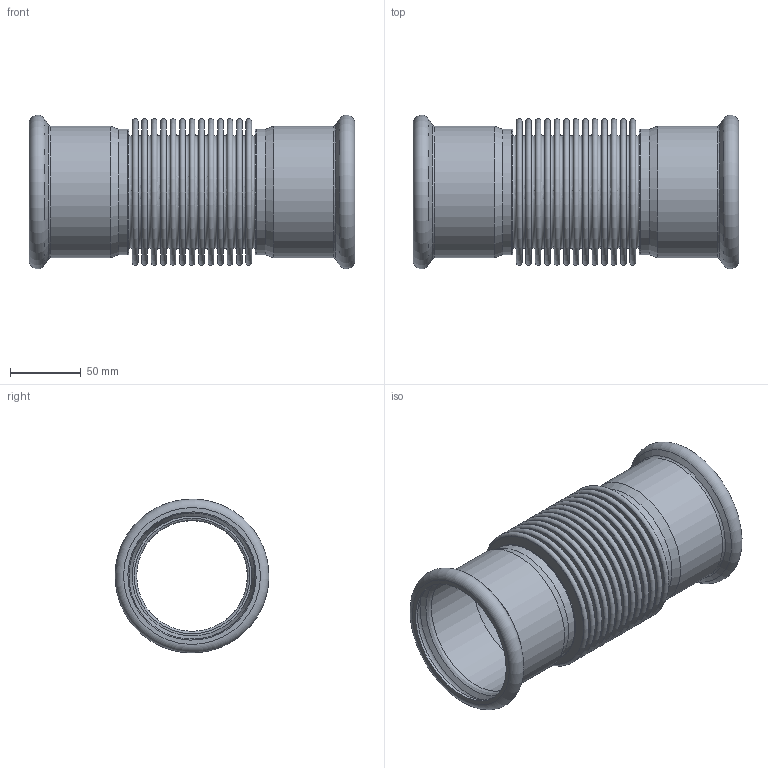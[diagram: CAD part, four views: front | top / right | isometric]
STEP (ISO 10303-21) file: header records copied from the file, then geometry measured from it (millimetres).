
FILE_DESCRIPTION((''),'2;1');
FILE_NAME('G:\Nirosan-Schmiedefeld\Technics\CAD\001 Serie 9.000\089\69872L89H(0).stp','2018-09-11T15:34:44',('herberg'),(''),'Autodesk Inventor 2009','Autodesk Inventor 2009','');
FILE_SCHEMA(('AUTOMOTIVE_DESIGN { 1 0 10303 214 1 1 1 1 }'));
Length unit declared in the file: millimetre
Products named in the file (3): 69872L89H(0); 69488L89P(0); 69HM89P(0)
Assembly tree (3 placements, depth 2):
  69872L89H(0)
    69488L89P(0)
    69HM89P(0)  x2
Bounding box: 231 x 109.01 x 109.01 mm (x, y, z)
Volume: 147391.8 mm3; surface area: 313465.6 mm2
Topology: 3 solids, 3 shells, 144 faces, 228 edges, 146 vertices
Faces by surface type: plane 62, bspline 32, torus 30, cylinder 12, cone 8
Full cylindrical faces by diameter (mm): 84.9 x2, 88.9 x4, 89.5 x2, 91 x2, 93.5 x2
Entity records: 4870 total; most frequent: CARTESIAN_POINT 2718, DIRECTION 464, ORIENTED_EDGE 256, EDGE_LOOP 256, AXIS2_PLACEMENT_3D 232, VERTEX_POINT 128, CIRCLE 128, EDGE_CURVE 128
